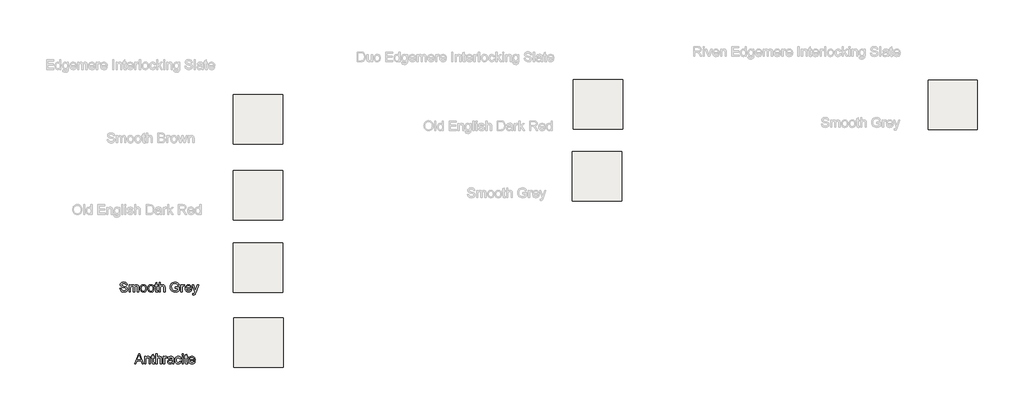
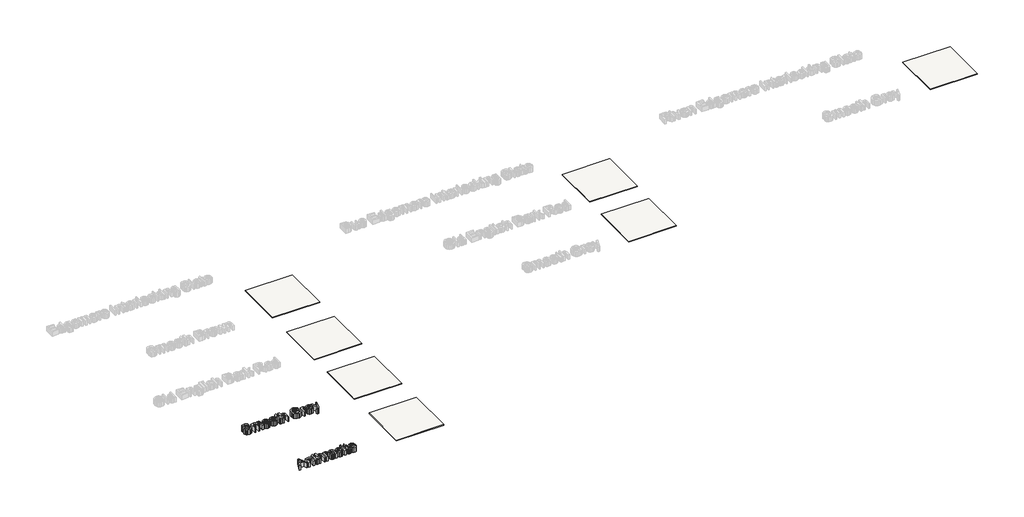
# One storey, part 1 of 8: 7 coverings, 2 proxies.
"""IFC4 building model written with IfcOpenShell, lengths in millimetres."""

from ifc_helpers import new_model, si_unit, frame, origin, place, context, project, spatial, polyline, outline, extrude, element, save

model = new_model("IFC4")

# Units and contexts
model_context = context("Model", 3, world=origin())
ifc_project = project(units=[si_unit("LENGTHUNIT", "METRE", prefix="MILLI")], contexts=[model_context])

# Site, building, storey
site = spatial("IfcSite", under=ifc_project)
building = spatial("IfcBuilding", under=site)
storey = spatial("IfcBuildingStorey", under=building, Name="Marley Concrete Interlocking Tiles", Elevation=3000.0)

# Proxies
placement = place(None, origin())
element("IfcBuildingElementProxy", 1, Name="600mm Arial", ObjectType="600mm Arial", at=placement, inside=storey, context=model_context, shape_type="SweptSolid", body=[
    extrude(outline(polyline([(-14165.3773876, -1301.9020252), (-14128.4543107, -1301.9020252), (-14124.2175319, -1322.3918089), (-14116.5552722, -1338.8611599), (-14104.6021472, -1351.9320733), (-14087.4927722, -1362.2265445), (-14066.5793107, -1368.906232), (-14043.2139261, -1371.1327945), (-14022.6430126, -1369.4470974), (-14004.6321953, -1364.390006), (-13990.0378444, -1356.3851983), (-13979.7163299, -1345.8563522), (-13973.5775078, -1333.7680108), (-13971.5312338, -1321.0847176), (-13973.0636857, -1308.7259435), (-13977.6610415, -1298.0438522), (-13986.9999838, -1288.9302704), (-14002.7571953, -1281.2770252), (-14056.5192145, -1267.1784676), (-14091.8106809, -1257.8485397), (-14114.3918107, -1248.9693329), (-14132.7722194, -1236.5474579), (-14145.7980607, -1221.4933714), (-14153.559479, -1204.1315926), (-14156.1466184, -1184.7866406), (-14152.9464982, -1163.1610397), (-14143.3461376, -1142.9957752), (-14127.5979405, -1125.9044291), (-14105.9543107, -1113.5005829), (-14079.9747434, -1105.9555108), (-14051.2187338, -1103.4404868), (-14020.0648876, -1106.0726983), (-13992.8052722, -1113.9693329), (-13970.4134453, -1126.968131), (-13953.8629645, -1144.9068329), (-13943.3882049, -1166.6676502), (-13939.2235415, -1191.1327945), (-13976.1466184, -1191.1327945), (-13982.9254645, -1169.1015445), (-13997.0600799, -1153.2001022), (-14019.1454165, -1143.5726983), (-14049.7764261, -1140.3635637), (-14081.1285895, -1143.5366406), (-14102.637003, -1153.0558714), (-14115.0769069, -1167.0642849), (-14119.2235415, -1183.7049099), (-14116.2848395, -1197.8936118), (-14107.4687338, -1209.3058714), (-14086.6273876, -1219.5101983), (-14047.1802722, -1229.9308714), (-13981.8437338, -1248.4645252), (-13960.7950559, -1261.8599579), (-13946.1105607, -1278.3924099), (-13937.4837578, -1297.8815926), (-13934.6081569, -1320.1472176), (-13937.9164501, -1342.9086358), (-13947.8413299, -1364.3178906), (-13963.9771472, -1382.7433714), (-13985.918253, -1396.5534676), (-14012.3034694, -1405.1802704), (-14041.7716184, -1408.0558714), (-14077.9464982, -1404.9549099), (-14107.7211376, -1395.6520252), (-14131.4380847, -1380.1111599), (-14149.4398876, -1358.296256), (-14160.996378, -1331.7217368), (-14165.3773876, -1301.9020252)])), frame((0.0, 0.0, 3000.0), z_axis=(0.0, 0.0, 1.0), x_axis=(1.0, 0.0, 0.0)), (0.0, 0.0, 1.0), 150.0),
    extrude(outline(polyline([(-13883.8389261, -1403.4404868), (-13883.8389261, -1186.5174099), (-13846.9158492, -1186.5174099), (-13846.9158492, -1222.2145252), (-13835.8100799, -1205.8172897), (-13821.5312338, -1192.9717368), (-13804.5660895, -1184.6694531), (-13785.4014261, -1181.9020252), (-13764.8665703, -1184.7235397), (-13748.4062338, -1193.1880829), (-13736.1105607, -1206.7367608), (-13728.0696953, -1224.8106791), (-13714.6111617, -1206.038143), (-13699.2595992, -1192.6291887), (-13682.0150078, -1184.5838161), (-13662.8773876, -1181.9020252), (-13635.121979, -1186.3641647), (-13614.5961376, -1199.7505829), (-13601.9128444, -1222.421857), (-13597.6850799, -1254.7385637), (-13597.6850799, -1403.4404868), (-13634.6081569, -1403.4404868), (-13634.6081569, -1270.6039483), (-13638.0336376, -1239.7746214), (-13642.8473395, -1231.2740204), (-13650.4374838, -1224.5943329), (-13660.200104, -1220.2674099), (-13671.5312338, -1218.8251022), (-13691.5342386, -1222.5210156), (-13707.8413299, -1233.608756), (-13718.6856809, -1252.8455349), (-13722.3004645, -1280.9885637), (-13722.3004645, -1403.4404868), (-13759.2235415, -1403.4404868), (-13759.2235415, -1266.4933714), (-13761.3599597, -1245.6159676), (-13767.7692145, -1230.7241406), (-13779.0462578, -1221.7998618), (-13795.7860415, -1218.8251022), (-13810.0108011, -1220.8082752), (-13823.1177722, -1226.7577945), (-13833.9350799, -1236.5294291), (-13841.2908492, -1249.9789483), (-13845.5095992, -1268.6388041), (-13846.9158492, -1294.0414483), (-13846.9158492, -1403.4404868), (-13883.8389261, -1403.4404868)])), frame((0.0, 0.0, 3000.0), z_axis=(0.0, 0.0, 1.0), x_axis=(1.0, 0.0, 0.0)), (0.0, 0.0, 1.0), 150.0),
    extrude(outline(polyline([(-13551.5312338, -1294.9789483), (-13549.5345391, -1266.8854988), (-13543.5444549, -1242.6772656), (-13533.5609814, -1222.3542488), (-13519.5841184, -1205.9164483), (-13505.512604, -1195.4101382), (-13489.980753, -1187.905631), (-13472.9885655, -1183.4029267), (-13454.5360415, -1181.9020252), (-13434.1656989, -1183.7296995), (-13415.746979, -1189.2127224), (-13399.2798816, -1198.3510938), (-13384.7644069, -1211.1448137), (-13372.9172013, -1227.1611899), (-13364.4549117, -1245.9675301), (-13359.3775379, -1267.5638341), (-13357.6850799, -1291.9501022), (-13360.6778684, -1329.2517849), (-13369.6562338, -1357.6472176), (-13384.3587578, -1378.9122416), (-13404.5240222, -1394.8226983), (-13428.4753444, -1404.7475781), (-13454.5360415, -1408.0558714), (-13475.20386, -1406.2349579), (-13493.793854, -1400.7722176), (-13510.3060234, -1391.6676502), (-13524.7403684, -1378.921256), (-13536.461372, -1362.749381), (-13544.8335174, -1343.3683714), (-13549.8568047, -1320.7782272), (-13551.5312338, -1294.9789483)]), holes=[polyline([(-13514.6081569, -1294.9068329), (-13510.3353203, -1328.3232993), (-13497.5168107, -1352.1303906), (-13478.2259453, -1366.3821935), (-13454.5360415, -1371.1327945), (-13430.9543107, -1366.3551502), (-13411.699503, -1352.0222176), (-13398.8809934, -1327.8996214), (-13394.6081569, -1293.7529868), (-13398.9080367, -1261.3100781), (-13411.8076761, -1237.827506), (-13431.089527, -1223.5757031), (-13454.5360415, -1218.8251022), (-13478.2259453, -1223.5576743), (-13497.5168107, -1237.7553906), (-13510.3353203, -1261.5083954), (-13514.6081569, -1294.9068329)])]), frame((0.0, 0.0, 3000.0), z_axis=(0.0, 0.0, 1.0), x_axis=(1.0, 0.0, 0.0)), (0.0, 0.0, 1.0), 150.0),
    extrude(outline(polyline([(-13325.3773876, -1294.9789483), (-13323.3806929, -1266.8854988), (-13317.3906088, -1242.6772656), (-13307.4071352, -1222.3542488), (-13293.4302722, -1205.9164483), (-13279.3587578, -1195.4101382), (-13263.8269069, -1187.905631), (-13246.8347194, -1183.4029267), (-13228.3821953, -1181.9020252), (-13208.0118528, -1183.7296995), (-13189.5931328, -1189.2127224), (-13173.1260355, -1198.3510938), (-13158.6105607, -1211.1448137), (-13146.7633552, -1227.1611899), (-13138.3010655, -1245.9675301), (-13133.2236917, -1267.5638341), (-13131.5312338, -1291.9501022), (-13134.5240222, -1329.2517849), (-13143.5023876, -1357.6472176), (-13158.2049117, -1378.9122416), (-13178.3701761, -1394.8226983), (-13202.3214982, -1404.7475781), (-13228.3821953, -1408.0558714), (-13249.0500138, -1406.2349579), (-13267.6400078, -1400.7722176), (-13284.1521773, -1391.6676502), (-13298.5865222, -1378.921256), (-13310.3075258, -1362.749381), (-13318.6796713, -1343.3683714), (-13323.7029585, -1320.7782272), (-13325.3773876, -1294.9789483)]), holes=[polyline([(-13288.4543107, -1294.9068329), (-13284.1814742, -1328.3232993), (-13271.3629645, -1352.1303906), (-13252.0720992, -1366.3821935), (-13228.3821953, -1371.1327945), (-13204.8004645, -1366.3551502), (-13185.5456569, -1352.0222176), (-13172.7271472, -1327.8996214), (-13168.4543107, -1293.7529868), (-13172.7541905, -1261.3100781), (-13185.6538299, -1237.827506), (-13204.9356809, -1223.5757031), (-13228.3821953, -1218.8251022), (-13252.0720992, -1223.5576743), (-13271.3629645, -1237.7553906), (-13284.1814742, -1261.5083954), (-13288.4543107, -1294.9068329)])]), frame((0.0, 0.0, 3000.0), z_axis=(0.0, 0.0, 1.0), x_axis=(1.0, 0.0, 0.0)), (0.0, 0.0, 1.0), 150.0),
    extrude(outline(polyline([(-13011.5312338, -1372.6472176), (-13006.9158492, -1404.5222176), (-13034.5360415, -1408.0558714), (-13052.2583972, -1406.5234195), (-13065.4735415, -1401.9260637), (-13074.8124838, -1394.8407272), (-13080.9062338, -1385.8443329), (-13084.2595992, -1370.3936118), (-13085.3773876, -1343.9452945), (-13085.3773876, -1223.4404868), (-13113.0696953, -1223.4404868), (-13113.0696953, -1186.5174099), (-13085.3773876, -1186.5174099), (-13085.3773876, -1133.8010637), (-13048.4543107, -1112.0943329), (-13048.4543107, -1186.5174099), (-13011.5312338, -1186.5174099), (-13011.5312338, -1223.4404868), (-13048.4543107, -1223.4404868), (-13048.4543107, -1342.8635637), (-13046.5071953, -1361.9020252), (-13040.1970992, -1368.6448137), (-13027.6129645, -1371.1327945), (-13011.5312338, -1372.6472176)])), frame((0.0, 0.0, 3000.0), z_axis=(0.0, 0.0, 1.0), x_axis=(1.0, 0.0, 0.0)), (0.0, 0.0, 1.0), 150.0),
    extrude(outline(polyline([(-12974.6081569, -1403.4404868), (-12974.6081569, -1108.0558714), (-12937.6850799, -1108.0558714), (-12937.6850799, -1216.6616406), (-12924.1228804, -1201.4543089), (-12908.8930126, -1190.5919291), (-12891.9954766, -1184.0745012), (-12873.4302722, -1181.9020252), (-12851.1285895, -1184.2728185), (-12831.9639261, -1191.3851983), (-12816.8737819, -1202.6802704), (-12806.7956569, -1217.5991406), (-12801.1165703, -1238.0979387), (-12799.2235415, -1266.1327945), (-12799.2235415, -1403.4404868), (-12836.1466184, -1403.4404868), (-12836.1466184, -1269.9549099), (-12839.0853203, -1246.8419291), (-12847.9014261, -1231.0126022), (-12862.1081569, -1221.8719772), (-12881.2187338, -1218.8251022), (-12896.8227001, -1220.8803906), (-12911.4711376, -1227.046256), (-12923.6045511, -1236.7277464), (-12931.6634453, -1249.3299099), (-12936.1796713, -1266.0787079), (-12937.6850799, -1288.2001022), (-12937.6850799, -1403.4404868), (-12974.6081569, -1403.4404868)])), frame((0.0, 0.0, 3000.0), z_axis=(0.0, 0.0, 1.0), x_axis=(1.0, 0.0, 0.0)), (0.0, 0.0, 1.0), 150.0),
    extrude(outline(polyline([(-12489.9927722, -1288.0558714), (-12489.9927722, -1251.1327945), (-12369.9927722, -1251.1327945), (-12369.9927722, -1361.5414483), (-12399.1544309, -1381.8239002), (-12429.2355607, -1396.3731791), (-12460.1640463, -1405.1351983), (-12491.8677722, -1408.0558714), (-12533.2890463, -1403.4134435), (-12570.7259453, -1389.4861599), (-12601.8257049, -1366.7607993), (-12624.2355607, -1335.7241406), (-12637.7842386, -1298.4945733), (-12642.3004645, -1257.1904868), (-12637.8022674, -1215.5889243), (-12624.3076761, -1176.890006), (-12602.3755847, -1144.4290685), (-12572.5648876, -1121.5414483), (-12536.2547915, -1107.9657272), (-12494.824503, -1103.4404868), (-12464.4098395, -1106.0636839), (-12437.0600799, -1113.9332752), (-12414.028229, -1126.4813522), (-12396.5672915, -1143.140006), (-12383.6496232, -1164.7115204), (-12374.2475799, -1191.9981791), (-12408.2860415, -1201.5895252), (-12415.8852001, -1182.1273858), (-12425.1249838, -1167.4428906), (-12437.3485415, -1156.3731791), (-12453.8990222, -1147.7553906), (-12473.6315944, -1142.2115204), (-12495.4014261, -1140.3635637), (-12520.8852001, -1142.3557512), (-12542.6730607, -1148.3323137), (-12560.683878, -1157.5450541), (-12574.8365222, -1169.2457752), (-12593.8389261, -1197.6952945), (-12602.4927722, -1225.5678906), (-12605.3773876, -1255.6760637), (-12601.9068347, -1290.9855589), (-12591.4951761, -1320.0390445), (-12574.4579165, -1342.6291887), (-12551.1105607, -1358.5486599), (-12523.7878444, -1367.9867608), (-12494.824503, -1371.1327945), (-12469.2505847, -1368.7620012), (-12444.3076761, -1361.6496214), (-12422.6460174, -1351.8509435), (-12406.9158492, -1341.421256), (-12406.9158492, -1288.0558714), (-12489.9927722, -1288.0558714)])), frame((0.0, 0.0, 3000.0), z_axis=(0.0, 0.0, 1.0), x_axis=(1.0, 0.0, 0.0)), (0.0, 0.0, 1.0), 150.0),
    extrude(outline(polyline([(-12314.6081569, -1403.4404868), (-12314.6081569, -1186.5174099), (-12282.3004645, -1186.5174099), (-12282.3004645, -1218.608756), (-12270.3653684, -1200.0029868), (-12259.3677722, -1189.0414483), (-12248.3341184, -1183.686881), (-12236.2908492, -1181.9020252), (-12217.9014261, -1184.7505829), (-12199.2235415, -1193.296256), (-12211.5552722, -1226.3972176), (-12224.5360415, -1220.718131), (-12237.5168107, -1218.8251022), (-12248.5414501, -1220.6460156), (-12258.3942145, -1226.108756), (-12266.3539501, -1234.7986599), (-12271.699503, -1246.3010637), (-12276.1886857, -1266.9260637), (-12277.6850799, -1289.4260637), (-12277.6850799, -1403.4404868), (-12314.6081569, -1403.4404868)])), frame((0.0, 0.0, 3000.0), z_axis=(0.0, 0.0, 1.0), x_axis=(1.0, 0.0, 0.0)), (0.0, 0.0, 1.0), 150.0),
    extrude(outline(polyline([(-12024.2716184, -1338.8251022), (-11988.0696953, -1343.4404868), (-12001.1135655, -1370.718131), (-12021.9278684, -1391.108756), (-12050.043854, -1403.8190926), (-12084.9927722, -1408.0558714), (-12107.9029285, -1406.2281971), (-12128.3160895, -1400.7451743), (-12146.2322554, -1391.6068029), (-12161.6514261, -1378.8130829), (-12174.050765, -1362.7200841), (-12182.9074357, -1343.6838762), (-12188.2214381, -1321.7044591), (-12189.9927722, -1296.7818329), (-12188.2034093, -1271.0141046), (-12182.8353203, -1248.3022656), (-12173.8885054, -1228.6463161), (-12161.3629645, -1212.046256), (-12145.9843588, -1198.8581551), (-12128.4783492, -1189.4380829), (-12108.8449357, -1183.7860397), (-12087.0841184, -1181.9020252), (-12066.0241725, -1183.7815325), (-12046.9789501, -1189.4200541), (-12029.9484513, -1198.8175901), (-12014.9326761, -1211.9741406), (-12002.6753143, -1228.538143), (-11993.9200559, -1248.1580349), (-11988.6669008, -1270.8338161), (-11986.9158492, -1296.5654868), (-11987.1321953, -1306.5174099), (-12153.0696953, -1306.5174099), (-12146.6784694, -1334.155631), (-12131.8317145, -1354.4741406), (-12110.4044309, -1366.968131), (-12084.2716184, -1371.1327945), (-12064.6201761, -1369.2037079), (-12048.0696953, -1363.4164483), (-12034.6201761, -1353.4104387), (-12024.2716184, -1338.8251022)]), holes=[polyline([(-12153.0696953, -1269.5943329), (-12023.8389261, -1269.5943329), (-12028.8329165, -1250.0871214), (-12038.6225799, -1236.1327945), (-12060.1490222, -1223.1520252), (-12087.2283492, -1218.8251022), (-12112.1171713, -1222.2776262), (-12132.6970992, -1232.6351983), (-12147.0029886, -1248.7800301), (-12153.0696953, -1269.5943329)])]), frame((0.0, 0.0, 3000.0), z_axis=(0.0, 0.0, 1.0), x_axis=(1.0, 0.0, 0.0)), (0.0, 0.0, 1.0), 150.0),
    extrude(outline(polyline([(-11949.9927722, -1486.5174099), (-11954.6081569, -1450.9645252), (-11935.8581569, -1454.2097176), (-11918.3341184, -1450.1351983), (-11907.5889261, -1438.7770252), (-11897.4927722, -1411.5895252), (-11894.6081569, -1402.6472176), (-11973.0696953, -1186.5174099), (-11934.1273876, -1186.5174099), (-11892.5168107, -1306.9501022), (-11878.0216184, -1355.1231791), (-11863.5264261, -1312.5751022), (-11820.762003, -1186.5174099), (-11782.1081569, -1186.5174099), (-11857.6129645, -1408.6327945), (-11877.2283492, -1456.8058714), (-11887.2704165, -1472.1844772), (-11898.6466184, -1482.8395252), (-11911.8617626, -1489.0594772), (-11927.4206569, -1491.1327945), (-11949.9927722, -1486.5174099)])), frame((0.0, 0.0, 3000.0), z_axis=(0.0, 0.0, 1.0), x_axis=(1.0, 0.0, 0.0)), (0.0, 0.0, 1.0), 150.0),
])
element("IfcBuildingElementProxy", 2, Name="600mm Arial", ObjectType="600mm Arial", at=placement, inside=storey, context=model_context, shape_type="SweptSolid", body=[
    extrude(outline(polyline([(-13721.1844874, -3581.7928471), (-13603.2758336, -3286.4082317), (-13571.8335259, -3286.4082317), (-13453.924872, -3581.7928471), (-13492.9392951, -3581.7928471), (-13526.7614105, -3489.4851548), (-13648.4200643, -3489.4851548), (-13682.1700643, -3581.7928471), (-13721.1844874, -3581.7928471)]), holes=[polyline([(-13634.862372, -3452.5620779), (-13540.2469874, -3452.5620779), (-13566.8575643, -3379.9418856), (-13587.5546797, -3323.3313086), (-13605.9441028, -3373.5957317), (-13634.862372, -3452.5620779)])]), frame((0.0, 0.0, 3000.0), z_axis=(0.0, 0.0, 1.0), x_axis=(1.0, 0.0, 0.0)), (0.0, 0.0, 1.0), 150.0),
    extrude(outline(polyline([(-13419.0931412, -3581.7928471), (-13419.0931412, -3364.8697702), (-13382.1700643, -3364.8697702), (-13382.1700643, -3395.1582317), (-13369.3425403, -3379.887799), (-13353.9368912, -3368.9803471), (-13335.9531172, -3362.4358759), (-13315.3912182, -3360.2543856), (-13297.191098, -3362.0121981), (-13280.5234297, -3367.2856356), (-13266.6231893, -3375.4166452), (-13256.7253528, -3385.747174), (-13245.6556412, -3412.8986163), (-13243.7085259, -3448.5957317), (-13243.7085259, -3581.7928471), (-13280.6316028, -3581.7928471), (-13280.6316028, -3453.5716932), (-13284.8864105, -3420.903424), (-13290.7728287, -3411.1768615), (-13299.9224682, -3403.6317894), (-13311.6502326, -3398.7910442), (-13325.2710259, -3397.1774625), (-13346.8966268, -3400.8012606), (-13365.331122, -3411.6726548), (-13372.6981593, -3420.5473543), (-13377.9603287, -3432.6762606), (-13382.1700643, -3466.6966932), (-13382.1700643, -3581.7928471), (-13419.0931412, -3581.7928471)])), frame((0.0, 0.0, 3000.0), z_axis=(0.0, 0.0, 1.0), x_axis=(1.0, 0.0, 0.0)), (0.0, 0.0, 1.0), 150.0),
    extrude(outline(polyline([(-13114.4777566, -3550.9995779), (-13109.862372, -3582.8745779), (-13137.4825643, -3586.4082317), (-13155.2049201, -3584.8757798), (-13168.4200643, -3580.278424), (-13177.7590066, -3573.1930875), (-13183.8527566, -3564.1966932), (-13187.206122, -3548.7459721), (-13188.3239105, -3522.2976548), (-13188.3239105, -3401.7928471), (-13216.0162182, -3401.7928471), (-13216.0162182, -3364.8697702), (-13188.3239105, -3364.8697702), (-13188.3239105, -3312.153424), (-13151.4008336, -3290.4466932), (-13151.4008336, -3364.8697702), (-13114.4777566, -3364.8697702), (-13114.4777566, -3401.7928471), (-13151.4008336, -3401.7928471), (-13151.4008336, -3521.215924), (-13149.4537182, -3540.2543856), (-13143.143622, -3546.997174), (-13130.5594874, -3549.4851548), (-13114.4777566, -3550.9995779)])), frame((0.0, 0.0, 3000.0), z_axis=(0.0, 0.0, 1.0), x_axis=(1.0, 0.0, 0.0)), (0.0, 0.0, 1.0), 150.0),
    extrude(outline(polyline([(-13077.5546797, -3581.7928471), (-13077.5546797, -3286.4082317), (-13040.6316028, -3286.4082317), (-13040.6316028, -3395.0140009), (-13027.0694033, -3379.8066692), (-13011.8395355, -3368.9442894), (-12994.9419994, -3362.4268615), (-12976.3767951, -3360.2543856), (-12954.0751124, -3362.6251788), (-12934.9104489, -3369.7375586), (-12919.8203047, -3381.0326307), (-12909.7421797, -3395.9515009), (-12904.0630932, -3416.450299), (-12902.1700643, -3444.4851548), (-12902.1700643, -3581.7928471), (-12939.0931412, -3581.7928471), (-12939.0931412, -3448.3072702), (-12942.0318432, -3425.1942894), (-12950.8479489, -3409.3649625), (-12965.0546797, -3400.2243375), (-12984.1652566, -3397.1774625), (-12999.769223, -3399.2327509), (-13014.4176605, -3405.3986163), (-13026.5510739, -3415.0801067), (-13034.6099682, -3427.6822702), (-13039.1261941, -3444.4310682), (-13040.6316028, -3466.5524625), (-13040.6316028, -3581.7928471), (-13077.5546797, -3581.7928471)])), frame((0.0, 0.0, 3000.0), z_axis=(0.0, 0.0, 1.0), x_axis=(1.0, 0.0, 0.0)), (0.0, 0.0, 1.0), 150.0),
    extrude(outline(polyline([(-12851.4008336, -3581.7928471), (-12851.4008336, -3364.8697702), (-12819.0931412, -3364.8697702), (-12819.0931412, -3396.9611163), (-12807.1580451, -3378.3553471), (-12796.1604489, -3367.3938086), (-12785.1267951, -3362.0392413), (-12773.0835259, -3360.2543856), (-12754.6941028, -3363.1029432), (-12736.0162182, -3371.6486163), (-12748.3479489, -3404.7495779), (-12761.3287182, -3399.0704913), (-12774.3094874, -3397.1774625), (-12785.3341268, -3398.9983759), (-12795.1868912, -3404.4611163), (-12803.1466268, -3413.1510202), (-12808.4921797, -3424.653424), (-12812.9813624, -3445.278424), (-12814.4777566, -3467.778424), (-12814.4777566, -3581.7928471), (-12851.4008336, -3581.7928471)])), frame((0.0, 0.0, 3000.0), z_axis=(0.0, 0.0, 1.0), x_axis=(1.0, 0.0, 0.0)), (0.0, 0.0, 1.0), 150.0),
    extrude(outline(polyline([(-12574.4777566, -3554.1005394), (-12592.1189826, -3569.2267413), (-12610.2830451, -3579.1245779), (-12629.3846076, -3584.5873182), (-12649.8383336, -3586.4082317), (-12680.6947037, -3582.0272221), (-12703.456122, -3568.8841932), (-12717.4915787, -3548.9262606), (-12722.1700643, -3524.1005394), (-12720.4032374, -3508.794049), (-12715.1027566, -3494.8938086), (-12706.9266749, -3482.9947702), (-12696.5330451, -3473.6918856), (-12670.6796797, -3461.5765009), (-12638.7325643, -3456.0236163), (-12600.9801605, -3450.1822702), (-12574.6941028, -3443.3313086), (-12574.4777566, -3435.1101548), (-12577.0198239, -3418.6317894), (-12584.6460259, -3407.8505394), (-12601.7013143, -3399.8457317), (-12625.4633336, -3397.1774625), (-12647.4585259, -3398.9533038), (-12662.8191028, -3404.2808279), (-12673.2938624, -3414.1335923), (-12680.6316028, -3429.4851548), (-12717.5546797, -3424.8697702), (-12711.1454249, -3404.6774625), (-12701.581122, -3388.8120779), (-12687.9693432, -3376.6786644), (-12669.4176605, -3367.6822702), (-12646.7283576, -3362.1113567), (-12620.7037182, -3360.2543856), (-12595.7427807, -3361.8950106), (-12575.956122, -3366.8168856), (-12561.0372518, -3374.2177269), (-12550.6796797, -3383.2952509), (-12543.8106893, -3394.5182077), (-12539.3575643, -3408.3553471), (-12537.5546797, -3440.6630394), (-12537.5546797, -3486.6005394), (-12535.6796797, -3550.747174), (-12528.3239105, -3581.7928471), (-12565.2469874, -3581.7928471), (-12574.4777566, -3554.1005394)]), holes=[polyline([(-12574.4777566, -3480.2543856), (-12634.0450643, -3491.5765009), (-12665.8118912, -3497.5620779), (-12680.1989105, -3507.2976548), (-12685.2469874, -3521.5043856), (-12682.4975884, -3532.4839529), (-12674.2493912, -3541.4803471), (-12660.6826845, -3547.4839529), (-12641.9777566, -3549.4851548), (-12622.1460259, -3547.2766211), (-12604.6219874, -3540.6510202), (-12590.4152566, -3530.8884), (-12580.5354489, -3519.2688086), (-12576.1544393, -3507.2976548), (-12574.6941028, -3490.7111163), (-12574.4777566, -3480.2543856)])]), frame((0.0, 0.0, 3000.0), z_axis=(0.0, 0.0, 1.0), x_axis=(1.0, 0.0, 0.0)), (0.0, 0.0, 1.0), 150.0),
    extrude(outline(polyline([(-12348.3239105, -3503.3313086), (-12311.4008336, -3507.9466932), (-12321.6953047, -3540.7862365), (-12341.0402566, -3565.6029432), (-12367.6147759, -3581.2069096), (-12399.5979489, -3586.4082317), (-12420.3063324, -3584.5940791), (-12438.8737903, -3579.1516211), (-12455.3003227, -3570.0808579), (-12469.5859297, -3557.3817894), (-12481.1491809, -3541.2932978), (-12489.4086461, -3522.0542654), (-12494.3643251, -3499.664692), (-12496.0162182, -3474.1245779), (-12493.1947037, -3441.2670057), (-12484.7301605, -3412.7904432), (-12470.487372, -3389.79465), (-12450.331122, -3373.3793856), (-12426.2175403, -3363.5356356), (-12400.1027566, -3360.2543856), (-12368.9038384, -3364.7615971), (-12343.9609297, -3378.2832317), (-12326.0672999, -3400.0981356), (-12316.0162182, -3429.4851548), (-12352.9392951, -3434.1005394), (-12359.6370114, -3417.9917654), (-12370.0666989, -3406.4442894), (-12383.6514345, -3399.4941692), (-12399.8142951, -3397.1774625), (-12423.675473, -3401.7387606), (-12442.6147759, -3415.4226548), (-12454.9735499, -3438.9683279), (-12459.0931412, -3473.1149625), (-12455.0636941, -3507.7213327), (-12442.9753528, -3531.3481356), (-12424.378598, -3544.9509), (-12400.8239105, -3549.4851548), (-12381.7043191, -3546.6546259), (-12366.0282374, -3538.1630394), (-12354.6249922, -3523.794049), (-12348.3239105, -3503.3313086)])), frame((0.0, 0.0, 3000.0), z_axis=(0.0, 0.0, 1.0), x_axis=(1.0, 0.0, 0.0)), (0.0, 0.0, 1.0), 150.0),
    extrude(outline(polyline([(-12279.0931412, -3581.7928471), (-12279.0931412, -3364.8697702), (-12242.1700643, -3364.8697702), (-12242.1700643, -3581.7928471), (-12279.0931412, -3581.7928471)])), frame((0.0, 0.0, 3000.0), z_axis=(0.0, 0.0, 1.0), x_axis=(1.0, 0.0, 0.0)), (0.0, 0.0, 1.0), 150.0),
    extrude(outline(polyline([(-12279.0931412, -3323.3313086), (-12279.0931412, -3286.4082317), (-12242.1700643, -3286.4082317), (-12242.1700643, -3323.3313086), (-12279.0931412, -3323.3313086)])), frame((0.0, 0.0, 3000.0), z_axis=(0.0, 0.0, 1.0), x_axis=(1.0, 0.0, 0.0)), (0.0, 0.0, 1.0), 150.0),
    extrude(outline(polyline([(-12108.3239105, -3550.9995779), (-12103.7085259, -3582.8745779), (-12131.3287182, -3586.4082317), (-12149.0510739, -3584.8757798), (-12162.2662182, -3580.278424), (-12171.6051605, -3573.1930875), (-12177.6989105, -3564.1966932), (-12181.0522759, -3548.7459721), (-12182.1700643, -3522.2976548), (-12182.1700643, -3401.7928471), (-12209.862372, -3401.7928471), (-12209.862372, -3364.8697702), (-12182.1700643, -3364.8697702), (-12182.1700643, -3312.153424), (-12145.2469874, -3290.4466932), (-12145.2469874, -3364.8697702), (-12108.3239105, -3364.8697702), (-12108.3239105, -3401.7928471), (-12145.2469874, -3401.7928471), (-12145.2469874, -3521.215924), (-12143.299872, -3540.2543856), (-12136.9897759, -3546.997174), (-12124.4056412, -3549.4851548), (-12108.3239105, -3550.9995779)])), frame((0.0, 0.0, 3000.0), z_axis=(0.0, 0.0, 1.0), x_axis=(1.0, 0.0, 0.0)), (0.0, 0.0, 1.0), 150.0),
    extrude(outline(polyline([(-11919.5258336, -3517.1774625), (-11883.3239105, -3521.7928471), (-11896.3677807, -3549.0704913), (-11917.1820836, -3569.4611163), (-11945.2980691, -3582.1714529), (-11980.2469874, -3586.4082317), (-12003.1571437, -3584.5805574), (-12023.5703047, -3579.0975346), (-12041.4864706, -3569.9591632), (-12056.9056412, -3557.1654432), (-12069.3049802, -3541.0724444), (-12078.1616509, -3522.0362365), (-12083.4756533, -3500.0568194), (-12085.2469874, -3475.1341932), (-12083.4576244, -3449.3664649), (-12078.0895355, -3426.6546259), (-12069.1427206, -3406.9986764), (-12056.6171797, -3390.3986163), (-12041.2385739, -3377.2105154), (-12023.7325643, -3367.7904432), (-12004.0991509, -3362.1384), (-11982.3383336, -3360.2543856), (-11961.2783876, -3362.1338928), (-11942.2331653, -3367.7724144), (-11925.2026665, -3377.1699505), (-11910.1868912, -3390.3265009), (-11897.9295295, -3406.8905033), (-11889.1742711, -3426.5103952), (-11883.921116, -3449.1861764), (-11882.1700643, -3474.9178471), (-11882.3864105, -3484.8697702), (-12048.3239105, -3484.8697702), (-12041.9326845, -3512.5079913), (-12027.0859297, -3532.8265009), (-12005.6586461, -3545.3204913), (-11979.5258336, -3549.4851548), (-11959.8743912, -3547.5560682), (-11943.3239105, -3541.7688086), (-11929.8743912, -3531.762799), (-11919.5258336, -3517.1774625)]), holes=[polyline([(-12048.3239105, -3447.9466932), (-11919.0931412, -3447.9466932), (-11924.0871316, -3428.4394817), (-11933.8767951, -3414.4851548), (-11955.4032374, -3401.5043856), (-11982.4825643, -3397.1774625), (-12007.3713864, -3400.6299865), (-12027.9513143, -3410.9875586), (-12042.2572037, -3427.1323904), (-12048.3239105, -3447.9466932)])]), frame((0.0, 0.0, 3000.0), z_axis=(0.0, 0.0, 1.0), x_axis=(1.0, 0.0, 0.0)), (0.0, 0.0, 1.0), 150.0),
])

# Coverings
element("IfcCovering", 3, ObjectType="Marley_ConcreteInterlockingTile-EdgemereSmoothBrown", at=placement, inside=storey, context=model_context, shape_type="SweptSolid", body=[
    extrude(outline(polyline([(-10724.8641486, 3091.1989639), (-10724.8641486, 4591.1989639), (-9224.8641486, 4591.1989639), (-9224.8641486, 3091.1989639), (-10724.8641486, 3091.1989639)])), frame((0.0, 0.0, 3000.0), z_axis=(0.0, 0.0, 1.0), x_axis=(1.0, 0.0, 0.0)), (0.0, 0.0, 1.0), 18.0),
])
element("IfcCovering", 4, ObjectType="Marley_ConcreteInterlockingTile-EdgemereOEDR", at=placement, inside=storey, context=model_context, shape_type="SweptSolid", body=[
    extrude(outline(polyline([(-10724.8641486, 791.1989639), (-10724.8641486, 2291.1989639), (-9224.8641486, 2291.1989639), (-9224.8641486, 791.1989639), (-10724.8641486, 791.1989639)])), frame((0.0, 0.0, 3000.0), z_axis=(0.0, 0.0, 1.0), x_axis=(1.0, 0.0, 0.0)), (0.0, 0.0, 1.0), 18.0),
])
element("IfcCovering", 5, ObjectType="Marley_ConcreteInterlockingTile-EdgemereSmoothGrey", at=placement, inside=storey, context=model_context, shape_type="SweptSolid", body=[
    extrude(outline(polyline([(-10724.8641486, -1408.8010361), (-10724.8641486, 91.1989639), (-9224.8641486, 91.1989639), (-9224.8641486, -1408.8010361), (-10724.8641486, -1408.8010361)])), frame((0.0, 0.0, 3000.0), z_axis=(0.0, 0.0, 1.0), x_axis=(1.0, 0.0, 0.0)), (0.0, 0.0, 1.0), 18.0),
])
element("IfcCovering", 6, ObjectType="Marley_ConcreteInterlockingTile-EdgemereAnthracite", at=placement, inside=storey, context=model_context, shape_type="SweptSolid", body=[
    extrude(outline(polyline([(-10713.0869939, -3691.241119), (-10713.0869939, -2191.241119), (-9213.0869939, -2191.241119), (-9213.0869939, -3691.241119), (-10713.0869939, -3691.241119)])), frame((0.0, 0.0, 3000.0), z_axis=(0.0, 0.0, 1.0), x_axis=(1.0, 0.0, 0.0)), (0.0, 0.0, 1.0), 18.0),
])
element("IfcCovering", 7, ObjectType="Marley_ConcreteInterlockingTile-DuoEdgemereOEDR", at=placement, inside=storey, context=model_context, shape_type="SweptSolid", body=[
    extrude(outline(polyline([(-411.5066503, 3547.9731206), (-411.5066503, 5047.9731206), (1088.4933497, 5047.9731206), (1088.4933497, 3547.9731206), (-411.5066503, 3547.9731206)])), frame((0.0, 0.0, 3000.0), z_axis=(0.0, 0.0, 1.0), x_axis=(1.0, 0.0, 0.0)), (0.0, 0.0, 1.0), 18.0),
])
element("IfcCovering", 8, ObjectType="Marley_ConcreteInterlockingTile-DuoEdgemereSmoothGrey", at=placement, inside=storey, context=model_context, shape_type="SweptSolid", body=[
    extrude(outline(polyline([(-440.9568426, 1364.9003671), (-440.9568426, 2864.9003671), (1059.0431574, 2864.9003671), (1059.0431574, 1364.9003671), (-440.9568426, 1364.9003671)])), frame((0.0, 0.0, 3000.0), z_axis=(0.0, 0.0, 1.0), x_axis=(1.0, 0.0, 0.0)), (0.0, 0.0, 1.0), 18.0),
])
element("IfcCovering", 9, ObjectType="Marley_ConcreteInterlockingTile_RivenEdgemereSmoothGrey", at=placement, inside=storey, context=model_context, shape_type="SweptSolid", body=[
    extrude(outline(polyline([(10354.6555503, 3534.3708409), (10354.6555503, 5034.3708409), (11854.6555503, 5034.3708409), (11854.6555503, 3534.3708409), (10354.6555503, 3534.3708409)])), frame((0.0, 0.0, 3000.0), z_axis=(0.0, 0.0, 1.0), x_axis=(1.0, 0.0, 0.0)), (0.0, 0.0, 1.0), 18.0),
])

save(model, "model.ifc")
